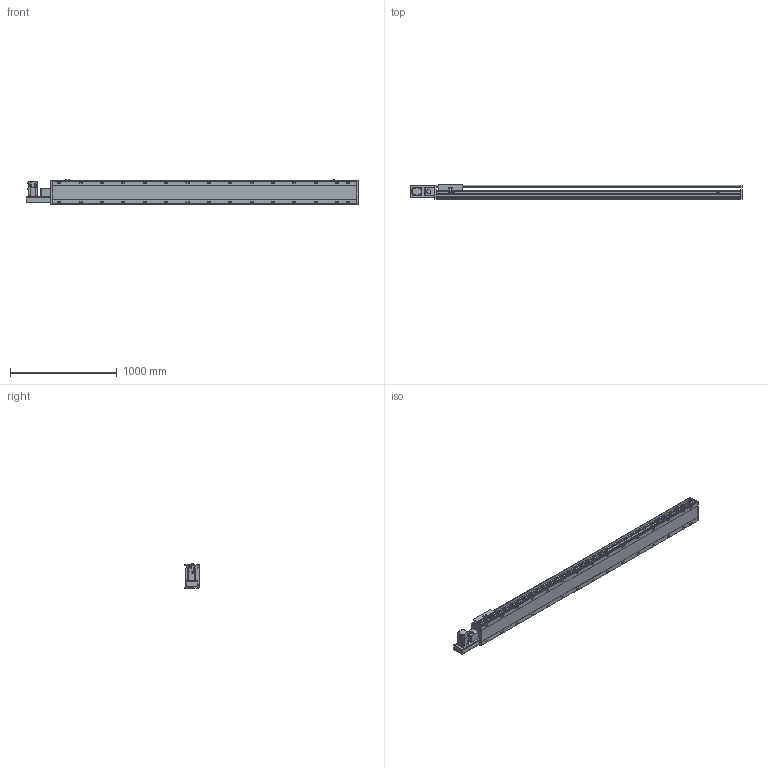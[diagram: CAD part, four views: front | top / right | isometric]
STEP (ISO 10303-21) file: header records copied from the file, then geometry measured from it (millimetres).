
FILE_DESCRIPTION(/* description */ ('STEP AP214'),/* implementation_level */ '2;1');
FILE_NAME(/* name */ 'PBS220-P40-S2500-L-T75-C1-N(0)',/* time_stamp */ '2022-06-11T09:57:42+02:00',/* author */ ('License CC BY-ND 4.0'),/* organization */ ('CADENAS'),/* preprocessor_version */ 'ST-DEVELOPER v18.102',/* originating_system */ 'PARTsolutions',/* authorisation */ ' ');
FILE_SCHEMA (('AUTOMOTIVE_DESIGN {1 0 10303 214 3 1 1}'));
Length unit declared in the file: millimetre
Products named in the file (7): PBS220-P40-S2500-L-T75-C1-N(0); PBS220_sensor; PBS220_plant; PBS220_sliser; T75-p1; PBS220T-L_motors; PBS220-S2500()_body
Assembly tree (8 placements, depth 2):
  PBS220-P40-S2500-L-T75-C1-N(0)
    PBS220_sensor  x3
    PBS220_plant
    PBS220_sliser
    T75-p1
    PBS220T-L_motors
    PBS220-S2500()_body
Bounding box: 3106 x 134 x 238.5 mm (x, y, z)
Volume: 41655966.4 mm3; surface area: 3820200.5 mm2
Topology: 8 solids, 8 shells, 998 faces, 2592 edges, 1684 vertices
Faces by surface type: plane 626, cylinder 318, cone 54
Full cylindrical faces by diameter (mm): 2.013 x4, 4.5 x14, 4.917 x4, 6 x7, 6.647 x8, 8 x10, 8.376 x30, 8.5 x30, 10 x6, 14 x30, 38 x2, 40 x1, 70 x1
Entity records: 27813 total; most frequent: CARTESIAN_POINT 4954, DIRECTION 4833, ORIENTED_EDGE 4358, EDGE_CURVE 2179, AXIS2_PLACEMENT_3D 1737, VERTEX_POINT 1528, LINE 1359, VECTOR 1359
